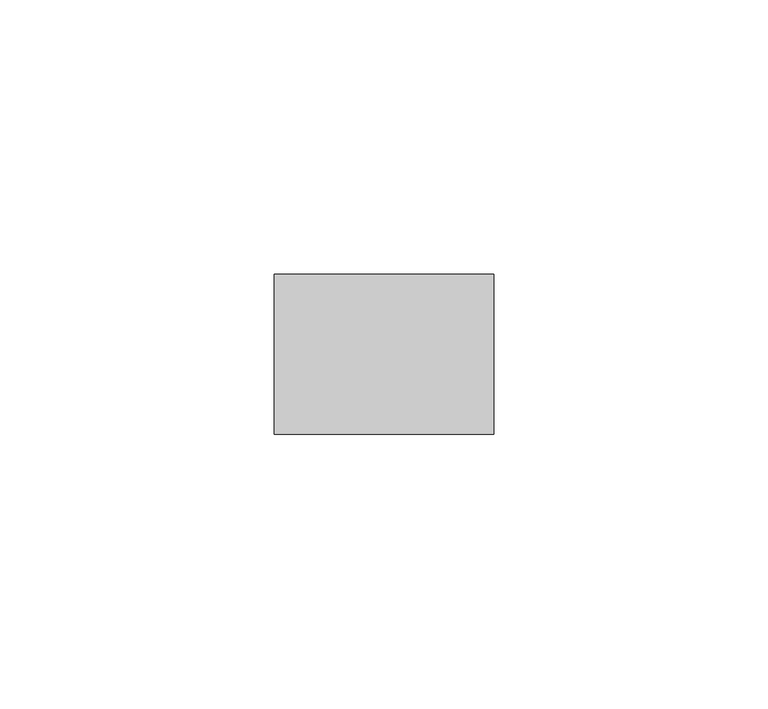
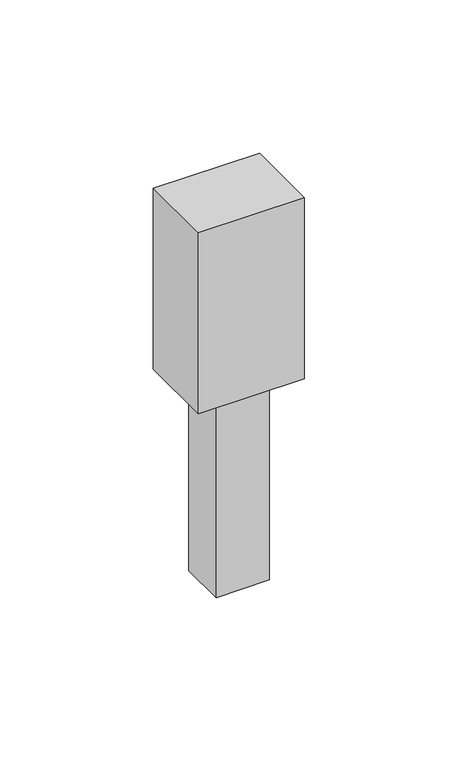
"""IFC4 building model written with IfcOpenShell, lengths in millimetres: proxy geometry, Fühler/Sensor : Fühler/Sensor."""

from ifc_helpers import new_model, si_unit, frame, origin, origin_with_axes, place, context, project, spatial, polyline, outline, extrude, source, transform, mapped, element, save


def electrical_equipment_71b73a1d(model_context):
    return source(origin(), model_context, "Body", "SweptSolid", [
        extrude(outline(polyline([(20.0, 13.6826532), (20.0, -15.5014771), (-20.0, -15.5014771), (-20.0, 13.6826532), (20.0, 13.6826532)])), frame((0.0, 0.0, 80.0), z_axis=(0.0, 0.0, 1.0), x_axis=(1.0, 0.0, 0.0)), (0.0, 0.0, 1.0), 72.0),
        extrude(outline(polyline([(10.0, 7.7208071), (10.0, -10.0), (-10.0, -10.0), (-10.0, 7.7208071), (10.0, 7.7208071)])), origin_with_axes(), (0.0, 0.0, 1.0), 80.0),
    ])


if __name__ == "__main__":
    model = new_model("IFC4")
    model_context = context("Model", 3, world=origin())
    ifc_project = project(units=[si_unit("LENGTHUNIT", "METRE", prefix="MILLI")], contexts=[model_context])
    site = spatial("IfcSite", under=ifc_project)
    building = spatial("IfcBuilding", under=site)
    placement = place(None, origin())
    electrical_equipment_shape = electrical_equipment_71b73a1d(model_context)
    element("IfcBuildingElementProxy", 1, Name="Fühler/Sensor : Fühler/Sensor", ObjectType="Fühler/Sensor : Fühler/Sensor", at=placement, inside=building, context=model_context, shape_type="MappedRepresentation", body=[
        mapped(electrical_equipment_shape, transform((0.0, 0.0, 0.0), x_axis=(1.0, 0.0, 0.0), y_axis=(0.0, 1.0, 0.0), z_axis=(0.0, 0.0, 1.0))),
    ])
    save(model, "model.ifc")
